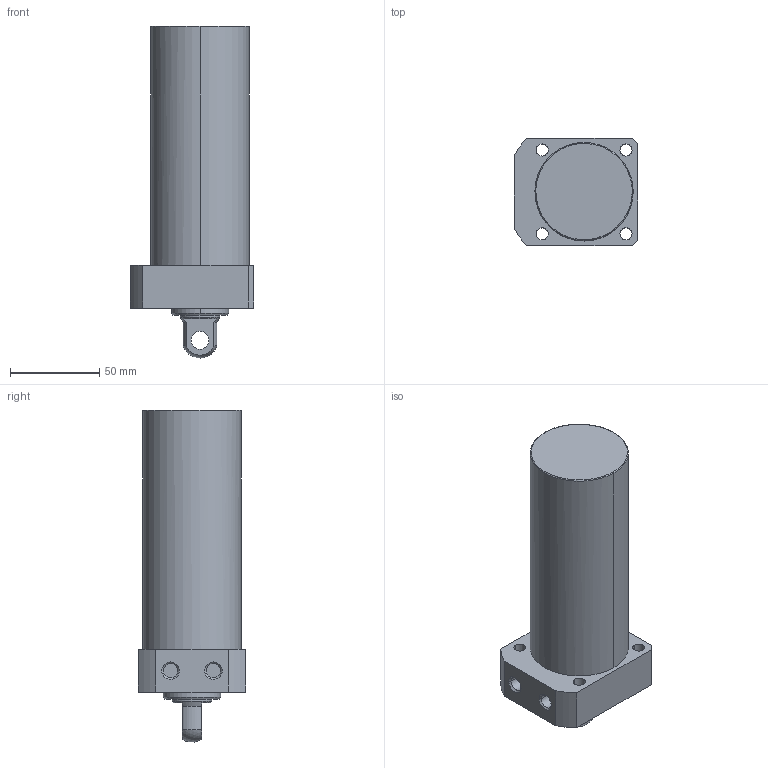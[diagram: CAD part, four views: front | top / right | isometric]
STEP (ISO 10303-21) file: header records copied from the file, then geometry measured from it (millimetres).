
FILE_DESCRIPTION((' '),'2;1');
FILE_NAME( 'TLLR-055CP-105.STEP.stp', '2025-10-24T16:34:51', (' '), ('--- Datakit www.datakit.com---'), ' Datakit CrossCadWare V2024.1 Dec 21 2023', 'Mastercam 2025', ' ');
FILE_SCHEMA(('AUTOMOTIVE_DESIGN { 1 0 10303 214 1 1 1 1 }'));
Length unit declared in the file: millimetre
Products named in the file (1): TLLR-055CP-105
Bounding box: 69 x 60 x 185.93 mm (x, y, z)
Volume: 417885 mm3; surface area: 41371.6 mm2
Topology: 1 solids, 1 shells, 57 faces, 164 edges, 116 vertices
Faces by surface type: cylinder 28, plane 18, cone 8, torus 2, sphere 1
Entity records: 2006 total; most frequent: DIRECTION 378, CARTESIAN_POINT 350, ORIENTED_EDGE 328, EDGE_CURVE 164, AXIS2_PLACEMENT_3D 160, VERTEX_POINT 116, CIRCLE 102, EDGE_LOOP 74
